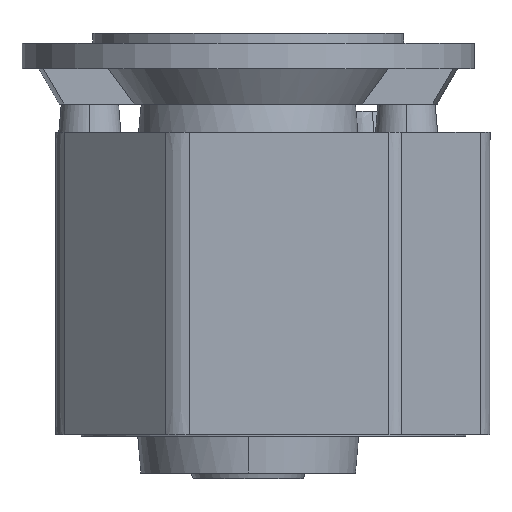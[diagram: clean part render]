
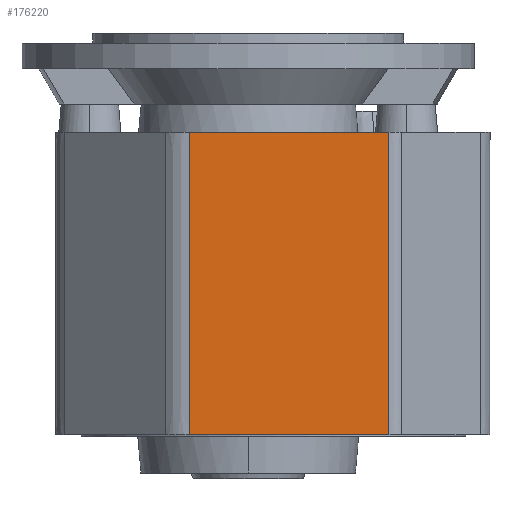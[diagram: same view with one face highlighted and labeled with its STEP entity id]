
A CAD part, left-side view. The second image highlights one B-rep face of the part: STEP entity #176220.
In plain terms, the highlighted planar face has unit normal (-1, 0, 0) as drawn and (0, 1, -0.026) by its records, which use the part's own axes.
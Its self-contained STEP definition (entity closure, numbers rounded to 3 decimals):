
#41160=CARTESIAN_POINT('',(-117.5,751.841,
-197.));
#41170=VERTEX_POINT('',#41160);
#41200=CARTESIAN_POINT('',(-117.5,756.068,
-35.555));
#41210=DIRECTION('',(0.,-0.026,
-1.));
#41220=VECTOR('',#41210,1.);
#41230=LINE('',#41200,#41220);
#41240=CARTESIAN_POINT('',(-117.5,753.685,
-126.569));
#41250=VERTEX_POINT('',#41240);
#41260=EDGE_CURVE('',#41250,#41170,#41230,.T.);
#148290=CARTESIAN_POINT('',(-10.5,753.685,
-126.569));
#148300=VERTEX_POINT('',#148290);
#148330=CARTESIAN_POINT('',(-10.5,756.068,
-35.555));
#148340=DIRECTION('',(0.,-0.026,
-1.));
#148350=VECTOR('',#148340,1.);
#148360=LINE('',#148330,#148350);
#148370=CARTESIAN_POINT('',(-10.5,751.841,
-197.));
#148380=VERTEX_POINT('',#148370);
#148390=EDGE_CURVE('',#148300,#148380,#148360,.T.);
#175070=CARTESIAN_POINT('',(-123.5,751.841,
-197.));
#175080=CARTESIAN_POINT('',(-119.283,751.841,
-197.));
#175090=CARTESIAN_POINT('',(-114.623,751.841,
-197.));
#175100=CARTESIAN_POINT('',(-109.52,751.841,
-197.));
#175110=CARTESIAN_POINT('',(-108.19,751.841,
-197.));
#175120=CARTESIAN_POINT('',(-101.983,751.841,
-197.));
#175130=CARTESIAN_POINT('',(-96.22,751.841,
-197.));
#175140=CARTESIAN_POINT('',(-89.459,751.841,
-197.));
#175150=CARTESIAN_POINT('',(-81.257,751.841,
-197.));
#175160=CARTESIAN_POINT('',(-72.834,751.841,
-197.));
#175170=CARTESIAN_POINT('',(-65.63,751.841,
-197.));
#175180=CARTESIAN_POINT('',(-64.965,751.841,
-197.));
#175190=CARTESIAN_POINT('',(-64.522,751.841,
-197.));
#175200=CARTESIAN_POINT('',(-63.954,751.841,
-197.));
#175210=CARTESIAN_POINT('',(-63.607,751.841,
-197.));
#175220=CARTESIAN_POINT('',(-62.989,751.841,
-197.));
#175230=CARTESIAN_POINT('',(-62.508,751.841,
-197.));
#175240=CARTESIAN_POINT('',(-55.958,751.841,
-197.));
#175250=CARTESIAN_POINT('',(-49.444,751.841,
-197.));
#175260=CARTESIAN_POINT('',(-42.924,751.841,
-197.));
#175270=CARTESIAN_POINT('',(-36.374,751.841,
-197.));
#175280=CARTESIAN_POINT('',(-29.959,751.841,
-197.));
#175290=CARTESIAN_POINT('',(-23.389,751.841,
-197.));
#175300=CARTESIAN_POINT('',(-22.487,751.841,
-197.));
#175310=CARTESIAN_POINT('',(-21.255,751.841,
-197.));
#175320=CARTESIAN_POINT('',(-0.806,751.841,
-197.));
#175330=CARTESIAN_POINT('',(19.213,751.841,
-197.));
#175340=CARTESIAN_POINT('',(38.8,751.841,
-197.));
#175350=(BOUNDED_CURVE() B_SPLINE_CURVE(3,(#175070,#175080,#175090,
#175100,#175110,#175120,#175130,#175140,#175150,#175160,#175170,#175180,
#175190,#175200,#175210,#175220,#175230,#175240,#175250,#175260,#175270,
#175280,#175290,#175300,#175310,#175320,#175330,#175340),.UNSPECIFIED.,
.F.,.F.) B_SPLINE_CURVE_WITH_KNOTS((4,1,1,1,1,2,1,1,1,1,2,2,1,1,1,1,1,1,
1,1,1,1,4),(164.047,176.697,178.027,
179.357,180.687,196.647,200.969,
221.252,221.917,222.582,223.247,
224.286,225.102,225.729,243.936,
244.642,245.289,263.587,263.887,
264.999,266.292,267.584,326.347),
.UNSPECIFIED.) CURVE() GEOMETRIC_REPRESENTATION_ITEM() 
RATIONAL_B_SPLINE_CURVE((1.,1.,1.,1.,1.,1.,1.,1.,1.,1.,1.,1.,1.,1.,1.,1.
,1.,1.,1.,1.,1.,1.,1.,1.,1.,1.,1.,1.)) REPRESENTATION_ITEM(''));
#175360=EDGE_CURVE('',#41170,#148380,#175350,.T.);
#175450=CARTESIAN_POINT('',(39.,753.685,
-126.569));
#175460=CARTESIAN_POINT('',(19.354,753.685,
-126.569));
#175470=CARTESIAN_POINT('',(-0.721,753.685,
-126.569));
#175480=CARTESIAN_POINT('',(-21.225,753.685,
-126.569));
#175490=CARTESIAN_POINT('',(-22.412,753.685,
-126.569));
#175500=CARTESIAN_POINT('',(-23.271,753.685,
-126.569));
#175510=CARTESIAN_POINT('',(-29.816,753.685,
-126.569));
#175520=CARTESIAN_POINT('',(-36.246,753.685,
-126.569));
#175530=CARTESIAN_POINT('',(-42.791,753.685,
-126.569));
#175540=CARTESIAN_POINT('',(-49.283,753.685,
-126.569));
#175550=CARTESIAN_POINT('',(-55.77,753.685,
-126.569));
#175560=CARTESIAN_POINT('',(-62.315,753.685,
-126.569));
#175570=CARTESIAN_POINT('',(-62.94,753.685,
-126.569));
#175580=CARTESIAN_POINT('',(-63.356,753.685,
-126.569));
#175590=CARTESIAN_POINT('',(-64.139,753.685,
-126.569));
#175600=CARTESIAN_POINT('',(-64.779,753.685,
-126.569));
#175610=CARTESIAN_POINT('',(-65.554,753.685,
-126.569));
#175620=CARTESIAN_POINT('',(-65.91,753.685,
-126.569));
#175630=CARTESIAN_POINT('',(-72.969,753.685,
-126.569));
#175640=CARTESIAN_POINT('',(-81.36,753.685,
-126.569));
#175650=CARTESIAN_POINT('',(-89.531,753.685,
-126.569));
#175660=CARTESIAN_POINT('',(-96.233,753.685,
-126.569));
#175670=CARTESIAN_POINT('',(-101.975,753.685,
-126.569));
#175680=CARTESIAN_POINT('',(-108.158,753.685,
-126.569));
#175690=CARTESIAN_POINT('',(-109.55,753.685,
-126.569));
#175700=CARTESIAN_POINT('',(-116.642,753.685,
-126.569));
#175710=CARTESIAN_POINT('',(-123.292,753.685,
-126.569));
#175720=CARTESIAN_POINT('',(-129.5,753.685,
-126.569));
#175730=(BOUNDED_CURVE() B_SPLINE_CURVE(3,(#175450,#175460,#175470,
#175480,#175490,#175500,#175510,#175520,#175530,#175540,#175550,#175560,
#175570,#175580,#175590,#175600,#175610,#175620,#175630,#175640,#175650,
#175660,#175670,#175680,#175690,#175700,#175710,#175720),.UNSPECIFIED.,
.F.,.F.) B_SPLINE_CURVE_WITH_KNOTS((4,1,1,1,1,1,1,1,1,1,1,1,2,2,1,1,1,2,
1,1,1,1,4),(-34.,24.938,26.225,27.513,28.5,28.8,
47.147,47.791,48.434,66.625,
67.25,68.069,68.5,70.418,
70.825,71.487,91.594,96.,
111.7,113.225,114.55,115.875,
134.5),.UNSPECIFIED.) CURVE() GEOMETRIC_REPRESENTATION_ITEM()
 RATIONAL_B_SPLINE_CURVE((1.,1.,1.,1.,1.,1.,1.,1.,1.,1.,1.,1.,1.,1.,1.,
1.,1.,1.,1.,1.,1.,1.,1.,1.,1.,1.,1.,1.)) REPRESENTATION_ITEM(''));
#175740=EDGE_CURVE('',#148300,#41250,#175730,.T.);
#176110=CARTESIAN_POINT('',(-49.051,753.651,
-127.851));
#176120=DIRECTION('',(0.,-1.,
0.026));
#176130=DIRECTION('',(0.,0.026,
1.));
#176140=AXIS2_PLACEMENT_3D('',#176110,#176120,#176130);
#176150=PLANE('',#176140);
#176160=ORIENTED_EDGE('',*,*,#41260,.F.);
#176170=ORIENTED_EDGE('',*,*,#175360,.F.);
#176180=ORIENTED_EDGE('',*,*,#148390,.T.);
#176190=ORIENTED_EDGE('',*,*,#175740,.F.);
#176200=EDGE_LOOP('',(#176190,#176180,#176170,#176160));
#176210=FACE_OUTER_BOUND('',#176200,.T.);
#176220=ADVANCED_FACE('',(#176210),#176150,.F.);
